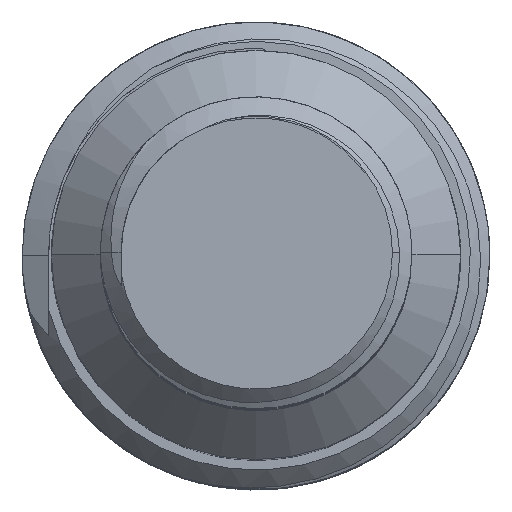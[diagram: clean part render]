
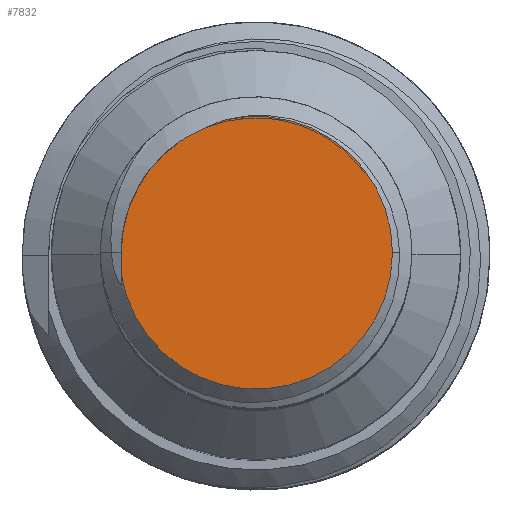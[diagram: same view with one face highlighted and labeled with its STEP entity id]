
A CAD part, top view. The second image highlights one B-rep face of the part: STEP entity #7832.
In plain terms, the highlighted planar face has unit normal (0, 0, 1).
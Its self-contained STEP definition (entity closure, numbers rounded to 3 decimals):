
#216 = EDGE_CURVE ( 'NONE', #5474, #7266, #8683, .T. ) ;
#1187 = ORIENTED_EDGE ( 'NONE', *, *, #2923, .T. ) ;
#1457 = EDGE_CURVE ( 'NONE', #7266, #8543, #7250, .T. ) ;
#2181 = CARTESIAN_POINT ( 'NONE',  ( -3.459, 0.681, 30. ) ) ;
#2646 = AXIS2_PLACEMENT_3D ( 'NONE', #2974, #4684, #7560 ) ;
#2650 = AXIS2_PLACEMENT_3D ( 'NONE', #5781, #5010, #7649 ) ;
#2890 = DIRECTION ( 'NONE',  ( 1., 0., 0. ) ) ;
#2923 = EDGE_CURVE ( 'NONE', #4850, #5474, #6657, .T. ) ;
#2974 = CARTESIAN_POINT ( 'NONE',  ( 0., 0., 30. ) ) ;
#3033 = FACE_OUTER_BOUND ( 'NONE', #5389, .T. ) ;
#3168 = LINE ( 'NONE', #3988, #11088 ) ;
#3529 = ORIENTED_EDGE ( 'NONE', *, *, #1457, .T. ) ;
#3988 = CARTESIAN_POINT ( 'NONE',  ( -3.459, -30., 30. ) ) ;
#4077 = CARTESIAN_POINT ( 'NONE',  ( -3.459, 0., 30. ) ) ;
#4219 = CARTESIAN_POINT ( 'NONE',  ( 3.5, 0., 30. ) ) ;
#4684 = DIRECTION ( 'NONE',  ( 0., 0., 1. ) ) ;
#4770 = CARTESIAN_POINT ( 'NONE',  ( -2.458, 2.457, 30. ) ) ;
#4850 = VERTEX_POINT ( 'NONE', #4219 ) ;
#5010 = DIRECTION ( 'NONE',  ( 0., 0., 1. ) ) ;
#5074 = ORIENTED_EDGE ( 'NONE', *, *, #8768, .T. ) ;
#5087 = CARTESIAN_POINT ( 'NONE',  ( -0.842, 3.397, 30. ) ) ;
#5309 = CARTESIAN_POINT ( 'NONE',  ( 0., 0., 30. ) ) ;
#5389 = EDGE_LOOP ( 'NONE', ( #6260, #5074, #1187, #9890, #3529 ) ) ;
#5417 = CARTESIAN_POINT ( 'NONE',  ( -3.459, -0.536, 30. ) ) ;
#5474 = VERTEX_POINT ( 'NONE', #5745 ) ;
#5541 = AXIS2_PLACEMENT_3D ( 'NONE', #5309, #8947, #2890 ) ;
#5713 = CARTESIAN_POINT ( 'NONE',  ( -3.459, 0., 30. ) ) ;
#5745 = CARTESIAN_POINT ( 'NONE',  ( -0.842, 3.397, 30. ) ) ;
#5781 = CARTESIAN_POINT ( 'NONE',  ( 0., 0., 30. ) ) ;
#5827 = CARTESIAN_POINT ( 'NONE',  ( -1.324, 3.195, 30. ) ) ;
#6007 = VERTEX_POINT ( 'NONE', #5417 ) ;
#6090 = CARTESIAN_POINT ( 'NONE',  ( -1.324, 3.195, 30. ) ) ;
#6260 = ORIENTED_EDGE ( 'NONE', *, *, #9345, .F. ) ;
#6657 = CIRCLE ( 'NONE', #5541, 3.5 ) ;
#6976 = CIRCLE ( 'NONE', #2650, 3.5 ) ;
#7076 = CARTESIAN_POINT ( 'NONE',  ( -1.171, 3.274, 30. ) ) ;
#7250 = B_SPLINE_CURVE_WITH_KNOTS ( 'NONE', 3,
 ( #5827, #11160, #11098, #4770, #8342, #11221, #2181, #5713 ),
 .UNSPECIFIED., .F., .F.,
 ( 4, 2, 2, 4 ),
 ( 0., 0.001, 0.002, 0.004 ),
 .UNSPECIFIED. ) ;
#7266 = VERTEX_POINT ( 'NONE', #8567 ) ;
#7560 = DIRECTION ( 'NONE',  ( 1., 0., 0. ) ) ;
#7649 = DIRECTION ( 'NONE',  ( 1., 0., 0. ) ) ;
#7832 = ADVANCED_FACE ( 'NONE', ( #3033 ), #10202, .T. ) ;
#8342 = CARTESIAN_POINT ( 'NONE',  ( -2.685, 2.207, 30. ) ) ;
#8543 = VERTEX_POINT ( 'NONE', #4077 ) ;
#8567 = CARTESIAN_POINT ( 'NONE',  ( -1.324, 3.195, 30. ) ) ;
#8661 = CARTESIAN_POINT ( 'NONE',  ( -1.014, 3.34, 30. ) ) ;
#8683 = B_SPLINE_CURVE_WITH_KNOTS ( 'NONE', 3,
 ( #5087, #8661, #7076, #6090 ),
 .UNSPECIFIED., .F., .F.,
 ( 4, 4 ),
 ( 0.001, 0.001 ),
 .UNSPECIFIED. ) ;
#8768 = EDGE_CURVE ( 'NONE', #6007, #4850, #6976, .T. ) ;
#8947 = DIRECTION ( 'NONE',  ( 0., 0., 1. ) ) ;
#9344 = DIRECTION ( 'NONE',  ( 0., 1., 0. ) ) ;
#9345 = EDGE_CURVE ( 'NONE', #6007, #8543, #3168, .T. ) ;
#9890 = ORIENTED_EDGE ( 'NONE', *, *, #216, .T. ) ;
#10202 = PLANE ( 'NONE',  #2646 ) ;
#11088 = VECTOR ( 'NONE', #9344, 1000. ) ;
#11098 = CARTESIAN_POINT ( 'NONE',  ( -1.932, 2.889, 30. ) ) ;
#11160 = CARTESIAN_POINT ( 'NONE',  ( -1.638, 3.065, 30. ) ) ;
#11221 = CARTESIAN_POINT ( 'NONE',  ( -3.253, 1.358, 30. ) ) ;
